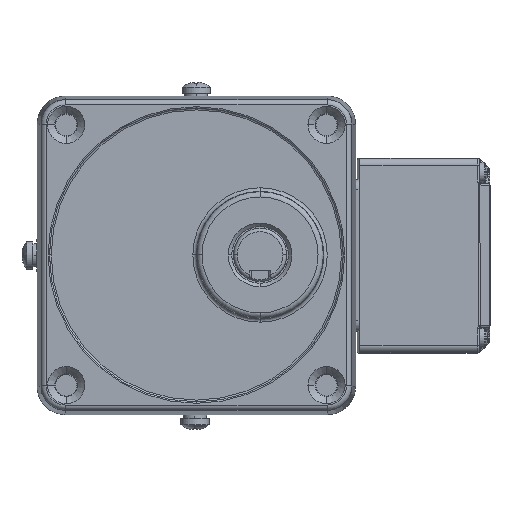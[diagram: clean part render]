
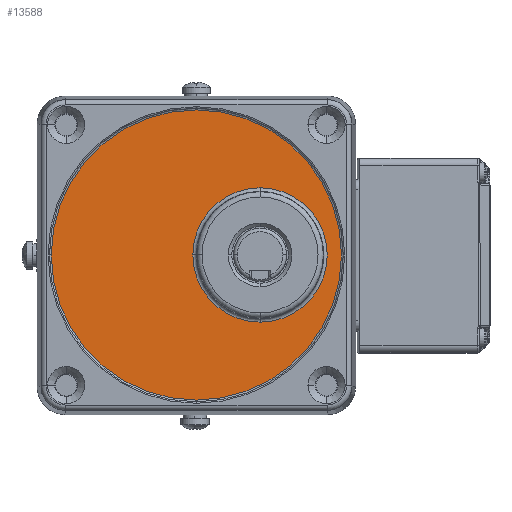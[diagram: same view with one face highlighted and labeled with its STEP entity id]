
A CAD part, top view. The second image highlights one B-rep face of the part: STEP entity #13588.
In plain terms, the highlighted planar face has unit normal (0, 0, 1) as drawn and (1, 0, 0) by its records, which use the part's own axes.
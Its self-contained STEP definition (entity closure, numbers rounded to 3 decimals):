
#818 = FACE_BOUND ( 'NONE', #44581, .T. ) ;
#1797 = DIRECTION ( 'NONE',  ( 1., 0., 0. ) ) ;
#3129 = DIRECTION ( 'NONE',  ( 0., 0., -1. ) ) ;
#4104 = DIRECTION ( 'NONE',  ( 0., 0., -1. ) ) ;
#4536 = VERTEX_POINT ( 'NONE', #42253 ) ;
#4739 = CARTESIAN_POINT ( 'NONE',  ( 2703.292, -774.175, 0. ) ) ;
#5576 = CIRCLE ( 'NONE', #42938, 18.983 ) ;
#6178 = CIRCLE ( 'NONE', #52066, 40.991 ) ;
#7370 = CARTESIAN_POINT ( 'NONE',  ( 2703.292, -775.157, 0. ) ) ;
#7914 = CARTESIAN_POINT ( 'NONE',  ( 2703.292, -775.157, 0. ) ) ;
#8383 = CIRCLE ( 'NONE', #45750, 40.991 ) ;
#10046 = ORIENTED_EDGE ( 'NONE', *, *, #63678, .F. ) ;
#10346 = AXIS2_PLACEMENT_3D ( 'NONE', #7370, #27784, #48118 ) ;
#11187 = EDGE_CURVE ( 'NONE', #57368, #46604, #37738, .T. ) ;
#12490 = CARTESIAN_POINT ( 'NONE',  ( 2703.292, -793.157, 0. ) ) ;
#12599 = CARTESIAN_POINT ( 'NONE',  ( 2703.292, -734.166, 0. ) ) ;
#13588 = ADVANCED_FACE ( 'NONE', ( #46609, #818 ), #21250, .T. ) ;
#15516 = EDGE_LOOP ( 'NONE', ( #41686, #53056, #10046 ) ) ;
#15713 = VERTEX_POINT ( 'NONE', #12599 ) ;
#16217 = DIRECTION ( 'NONE',  ( 0., 1., 0. ) ) ;
#17500 = AXIS2_PLACEMENT_3D ( 'NONE', #47579, #1797, #22235 ) ;
#18621 = VERTEX_POINT ( 'NONE', #26426 ) ;
#20552 = ORIENTED_EDGE ( 'NONE', *, *, #11187, .F. ) ;
#21250 = PLANE ( 'NONE',  #58701 ) ;
#22235 = DIRECTION ( 'NONE',  ( 0., 0., -1. ) ) ;
#26426 = CARTESIAN_POINT ( 'NONE',  ( 2703.292, -775.157, 40.991 ) ) ;
#27784 = DIRECTION ( 'NONE',  ( -1., 0., 0. ) ) ;
#28328 = DIRECTION ( 'NONE',  ( -1., 0., 0. ) ) ;
#28583 = CARTESIAN_POINT ( 'NONE',  ( 2703.292, -775.157, 0. ) ) ;
#29550 = CARTESIAN_POINT ( 'NONE',  ( 2703.292, -793.157, 0. ) ) ;
#32827 = DIRECTION ( 'NONE',  ( 1., 0., 0. ) ) ;
#32980 = ORIENTED_EDGE ( 'NONE', *, *, #41603, .F. ) ;
#33499 = ORIENTED_EDGE ( 'NONE', *, *, #43632, .F. ) ;
#33572 = AXIS2_PLACEMENT_3D ( 'NONE', #29550, #49904, #4104 ) ;
#35961 = CARTESIAN_POINT ( 'NONE',  ( 2703.292, -793.157, -18.983 ) ) ;
#37738 = CIRCLE ( 'NONE', #17500, 18.983 ) ;
#39150 = CIRCLE ( 'NONE', #10346, 40.991 ) ;
#39873 = VERTEX_POINT ( 'NONE', #35961 ) ;
#41595 = CARTESIAN_POINT ( 'NONE',  ( 2703.292, -775.157, 0. ) ) ;
#41603 = EDGE_CURVE ( 'NONE', #46604, #39873, #5576, .T. ) ;
#41686 = ORIENTED_EDGE ( 'NONE', *, *, #64057, .F. ) ;
#42253 = CARTESIAN_POINT ( 'NONE',  ( 2703.292, -775.157, -40.991 ) ) ;
#42938 = AXIS2_PLACEMENT_3D ( 'NONE', #12490, #32827, #53204 ) ;
#43632 = EDGE_CURVE ( 'NONE', #39873, #57368, #62363, .T. ) ;
#44581 = EDGE_LOOP ( 'NONE', ( #33499, #32980, #20552 ) ) ;
#45750 = AXIS2_PLACEMENT_3D ( 'NONE', #28583, #48931, #3129 ) ;
#46604 = VERTEX_POINT ( 'NONE', #65526 ) ;
#46609 = FACE_OUTER_BOUND ( 'NONE', #15516, .T. ) ;
#47579 = CARTESIAN_POINT ( 'NONE',  ( 2703.292, -793.157, 0. ) ) ;
#48118 = DIRECTION ( 'NONE',  ( 0., 0., 1. ) ) ;
#48679 = DIRECTION ( 'NONE',  ( 0., 0., 1. ) ) ;
#48931 = DIRECTION ( 'NONE',  ( -1., 0., 0. ) ) ;
#49904 = DIRECTION ( 'NONE',  ( 1., 0., 0. ) ) ;
#52066 = AXIS2_PLACEMENT_3D ( 'NONE', #7914, #28328, #48679 ) ;
#53056 = ORIENTED_EDGE ( 'NONE', *, *, #58538, .F. ) ;
#53204 = DIRECTION ( 'NONE',  ( 0., 0., 1. ) ) ;
#57368 = VERTEX_POINT ( 'NONE', #4739 ) ;
#58538 = EDGE_CURVE ( 'NONE', #15713, #4536, #39150, .T. ) ;
#58701 = AXIS2_PLACEMENT_3D ( 'NONE', #41595, #61941, #16217 ) ;
#61941 = DIRECTION ( 'NONE',  ( 1., 0., 0. ) ) ;
#62363 = CIRCLE ( 'NONE', #33572, 18.983 ) ;
#63678 = EDGE_CURVE ( 'NONE', #18621, #15713, #6178, .T. ) ;
#64057 = EDGE_CURVE ( 'NONE', #4536, #18621, #8383, .T. ) ;
#65526 = CARTESIAN_POINT ( 'NONE',  ( 2703.292, -793.157, 18.983 ) ) ;
